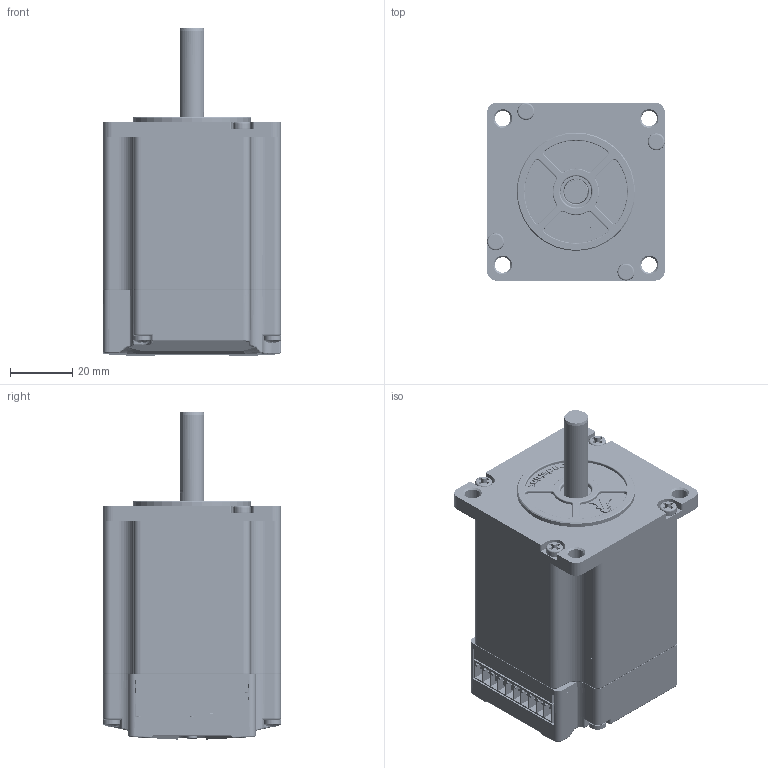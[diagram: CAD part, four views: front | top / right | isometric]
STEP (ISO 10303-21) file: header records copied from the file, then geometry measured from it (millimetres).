
FILE_DESCRIPTION((''),'2;1');
FILE_NAME('ICL57_ASM','2021-09-13T',('sunjun'),(''),'PRO/ENGINEER BY PARAMETRIC TECHNOLOGY CORPORATION, 2008090','PRO/ENGINEER BY PARAMETRIC TECHNOLOGY CORPORATION, 2008090','');
FILE_SCHEMA(('CONFIG_CONTROL_DESIGN'));
Length unit declared in the file: millimetre
Products named in the file (30): ZJ_ICL57_4; PCB_ICL57_4; HEADER_2_0_4X_1; 1_27CB_1; 200S_10P_1; 2068320401_1; PCB_ICL57_ASM_2_ASM_ASM_ASM; ____-3-6_1; BREP_2_1; AL_ICL57_22_14; PRT0003_5; ASM_ICL57_ASM_19_ASM_ASM_ASM; Z57HS56MD30B25; PRT0001; PRT0002; __12-__8-4_7; ZZTX57HSD12-S1; __12-__8-2_3; PRT0003; ASM0003_ASM; M3X47; DZTX57HSD32-S1; GJ57HSD16-S01; DZZJ_ASM; PRT0004; PRT0005; ASM0002_ASM; _57HS056SF055M-02; 57HS056SF055M-02_ASM; ICL57_ASM
Assembly tree (38 placements, depth 5):
  ICL57_ASM
    ASM_ICL57_ASM_19_ASM_ASM_ASM
      ZJ_ICL57_4
      PCB_ICL57_ASM_2_ASM_ASM_ASM
        PCB_ICL57_4
        HEADER_2_0_4X_1
        1_27CB_1
        200S_10P_1
        2068320401_1
      ____-3-6_1  x4
      BREP_2_1
      AL_ICL57_22_14
      PRT0003_5
    57HS056SF055M-02_ASM
      ASM0002_ASM
        ASM0003_ASM
          Z57HS56MD30B25
          PRT0001
          PRT0002  x2
          __12-__8-4_7
          ZZTX57HSD12-S1  x2
          __12-__8-2_3
          PRT0003
        M3X47  x4
        DZZJ_ASM
          DZTX57HSD32-S1
          GJ57HSD16-S01  x2
        PRT0004
        PRT0005
      _57HS056SF055M-02
Bounding box: 57.29 x 57.34 x 105.34 mm (x, y, z)
Volume: 144749.2 mm3; surface area: 125604.9 mm2
Topology: 31 solids, 31 shells, 5850 faces, 15543 edges, 9767 vertices
Faces by surface type: plane 2312, cylinder 1730, cone 1433, torus 154, sphere 97, extrusion 84, bspline 40
Entity records: 122358 total; most frequent: CARTESIAN_POINT 25367, ORIENTED_EDGE 20394, DIRECTION 20150, EDGE_CURVE 10197, AXIS2_PLACEMENT_3D 6792, VERTEX_POINT 6582, VECTOR 6566, LINE 6482
